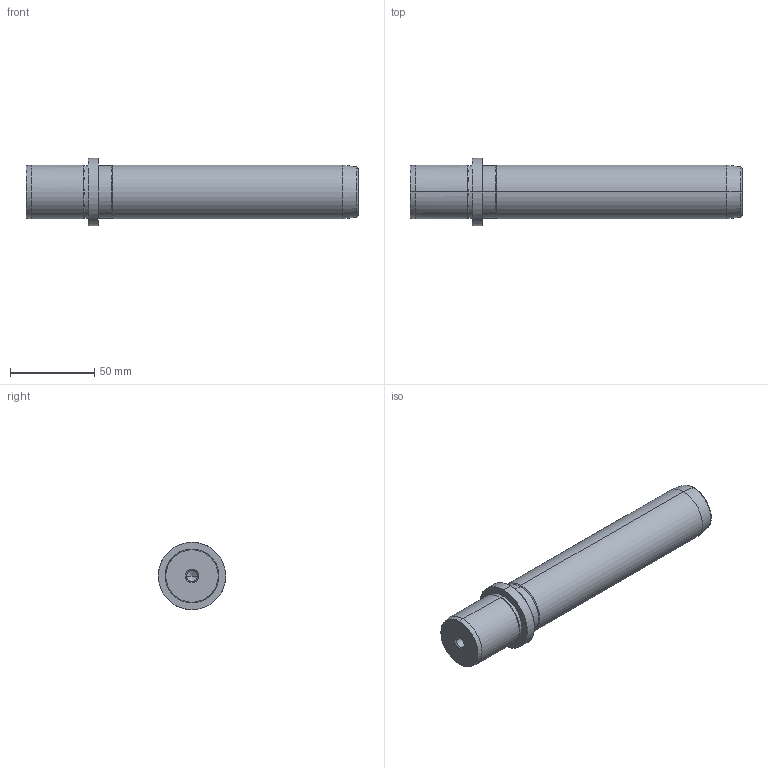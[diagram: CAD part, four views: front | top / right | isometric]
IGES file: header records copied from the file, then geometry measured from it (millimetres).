
Start section: START RECORD GO HERE.
Global section: file name: 718-32x160.igs; native system: DASSAULT SYSTEMES CATIA V5 R20 - www.3ds.com; preprocessor: CATIA Version 5 Release 20 ; author: Utente; organization: NB04-ASUS; date: 20210102.140745; units: millimetre
Bounding box: 197 x 40 x 40 mm (x, y, z)
Surface area: 23344.5 mm2 (no closed solid volume)
Topology: 0 solids, 0 shells, 36 faces, 196 edges, 192 vertices
Faces by surface type: revolution 32, plane 4
